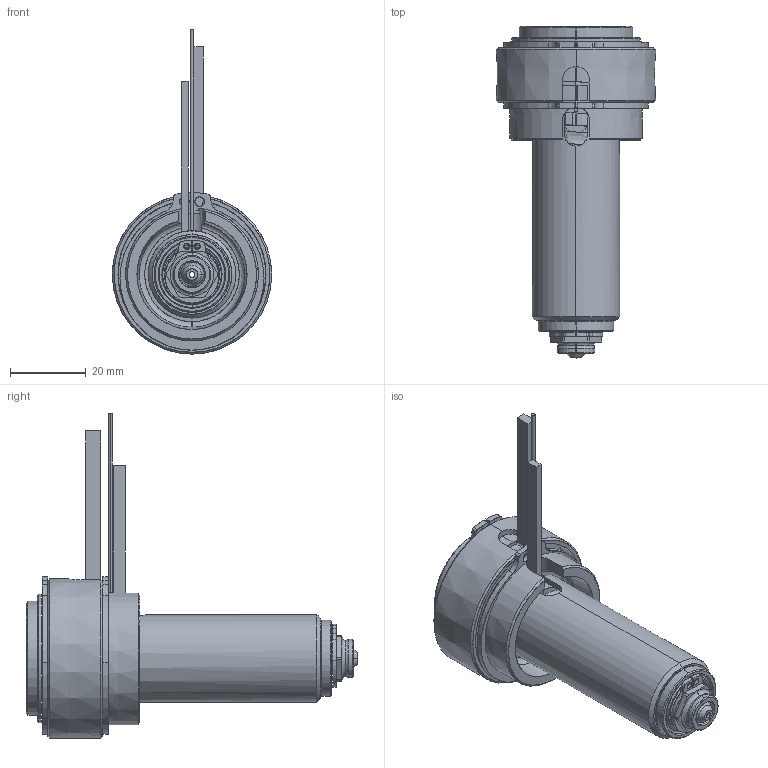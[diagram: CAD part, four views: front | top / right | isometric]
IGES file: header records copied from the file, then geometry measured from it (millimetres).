
Start section: SolidWorks IGES file using analytic representation for surfaces
Global section: file name: C:\Documents and Settings\ws-20\Desktop\TEM\UGER3551-M-A-0 [Øb-1.50  ØC-6.0].IGS; native system: SolidWorks 2012; preprocessor: SolidWorks 2012; author: ws-20; date: 120410.094015; units: millimetre
Bounding box: 42 x 87.4 x 85.4 mm (x, y, z)
Surface area: 30398.5 mm2 (no closed solid volume)
Topology: 0 solids, 0 shells, 204 faces, 3374 edges, 3374 vertices
Faces by surface type: revolution 130, bspline 74
